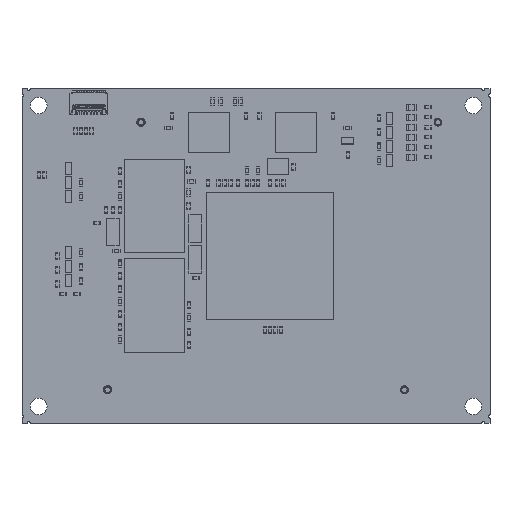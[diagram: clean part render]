
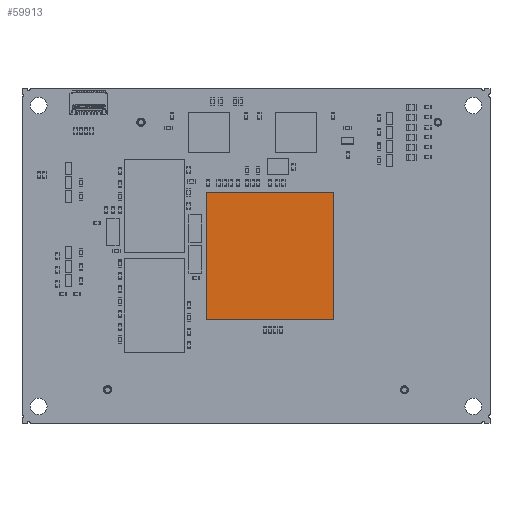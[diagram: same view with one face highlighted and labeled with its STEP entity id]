
A CAD part, top view. The second image highlights one B-rep face of the part: STEP entity #59913.
In plain terms, the highlighted planar face has unit normal (0, 0, 1).
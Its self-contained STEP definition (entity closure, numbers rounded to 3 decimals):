
#59784 = VERTEX_POINT('',#59785);
#59785 = CARTESIAN_POINT('',(-7.4,9.5,
    1.47));
#59791 = EDGE_CURVE('',#59784,#59792,#59794,.T.);
#59792 = VERTEX_POINT('',#59793);
#59793 = CARTESIAN_POINT('',(-7.4,-9.5,
    1.47));
#59794 = LINE('',#59795,#59796);
#59795 = CARTESIAN_POINT('',(-7.4,9.5,
    1.47));
#59796 = VECTOR('',#59797,1.);
#59797 = DIRECTION('',(0.,-1.,0.));
#59822 = EDGE_CURVE('',#59792,#59823,#59825,.T.);
#59823 = VERTEX_POINT('',#59824);
#59824 = CARTESIAN_POINT('',(11.6,-9.5,
    1.47));
#59825 = LINE('',#59826,#59827);
#59826 = CARTESIAN_POINT('',(-7.4,-9.5,
    1.47));
#59827 = VECTOR('',#59828,1.);
#59828 = DIRECTION('',(1.,0.,0.));
#59853 = EDGE_CURVE('',#59823,#59854,#59856,.T.);
#59854 = VERTEX_POINT('',#59855);
#59855 = CARTESIAN_POINT('',(11.6,9.5,
    1.47));
#59856 = LINE('',#59857,#59858);
#59857 = CARTESIAN_POINT('',(11.6,-9.5,
    1.47));
#59858 = VECTOR('',#59859,1.);
#59859 = DIRECTION('',(0.,1.,0.));
#59884 = EDGE_CURVE('',#59854,#59784,#59885,.T.);
#59885 = LINE('',#59886,#59887);
#59886 = CARTESIAN_POINT('',(11.6,9.5,
    1.47));
#59887 = VECTOR('',#59888,1.);
#59888 = DIRECTION('',(-1.,0.,0.));
#59913 = ADVANCED_FACE('',(#59914),#59920,.F.);
#59914 = FACE_BOUND('',#59915,.T.);
#59915 = EDGE_LOOP('',(#59916,#59917,#59918,#59919));
#59916 = ORIENTED_EDGE('',*,*,#59791,.T.);
#59917 = ORIENTED_EDGE('',*,*,#59822,.T.);
#59918 = ORIENTED_EDGE('',*,*,#59853,.T.);
#59919 = ORIENTED_EDGE('',*,*,#59884,.T.);
#59920 = PLANE('',#59921);
#59921 = AXIS2_PLACEMENT_3D('',#59922,#59923,#59924);
#59922 = CARTESIAN_POINT('',(-7.4,9.5,
    1.47));
#59923 = DIRECTION('',(0.,0.,-1.));
#59924 = DIRECTION('',(-1.,0.,0.));
